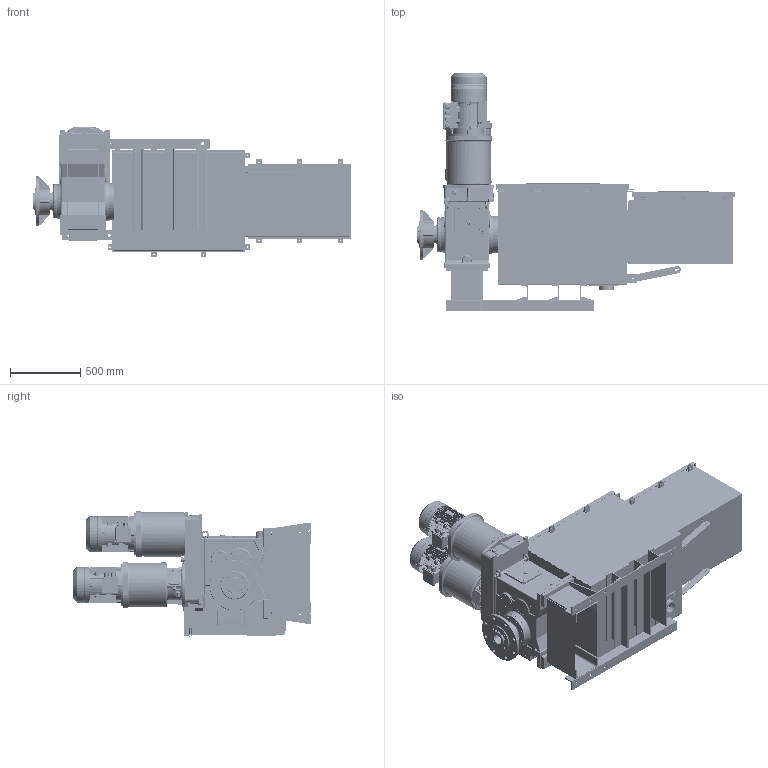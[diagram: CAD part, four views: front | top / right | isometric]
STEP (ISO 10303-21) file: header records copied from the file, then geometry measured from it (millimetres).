
FILE_DESCRIPTION(/* description */ (''),/* implementation_level */ '2;1');
FILE_NAME(/* name */ 'K:\NEMANJA\CABLE REEL\CABLE REEL DA\0700-6\07006002 DAPR-MCGBSR\STEP\75947.stp',/* time_stamp */ '2017-03-16T13:48:37+01:00',/* author */ ('vlakrc01'),/* organization */ ('Hillmar Industries Ltd.'),/* preprocessor_version */ 'ST-DEVELOPER v16.1',/* originating_system */ 'Autodesk Inventor 2016',/* authorisation */ '');
FILE_SCHEMA (('AUTOMOTIVE_DESIGN { 1 0 10303 214 3 1 1 }'));
Products named in the file (1): 75947
Bounding box: 2259.67 x 1691.71 x 925.53 mm (x, y, z)
Volume: 104941533.4 mm3; surface area: 24005080.9 mm2
Topology: 21 solids, 21 shells, 10525 faces, 28826 edges, 18605 vertices
Faces by surface type: plane 6409, cylinder 2274, bspline 909, cone 549, torus 308, sphere 76
Full cylindrical faces by diameter (mm): 3 x8, 5 x8, 7 x3, 8 x4, 8.376 x16, 8.731 x1, 10 x45, 10.106 x98, 10.5 x4, 11 x42, 12 x10, 12.5 x6, 13 x45, 13.5 x12, 14 x24, 14.3 x4, 15 x16, 17 x4, 17.294 x4, 18 x3, 18.256 x3, 18.38 x3, 20 x24, 20.5 x4, 21.336 x1, 22 x24, 22.225 x1, 22.3 x3, 22.631 x1, 23.812 x1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
Entity records: 362466 total; most frequent: CARTESIAN_POINT 94104, ORIENTED_EDGE 54948, DIRECTION 49517, EDGE_CURVE 27453, VERTEX_POINT 18149, LINE 17277, VECTOR 17277, AXIS2_PLACEMENT_3D 16120
